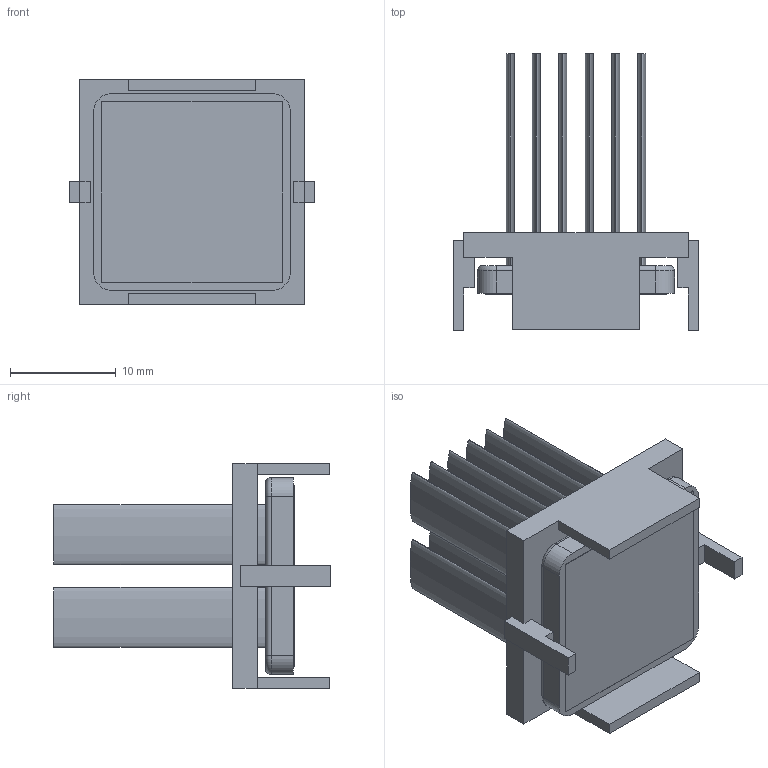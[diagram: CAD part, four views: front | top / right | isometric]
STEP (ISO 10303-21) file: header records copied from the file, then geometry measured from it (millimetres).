
FILE_DESCRIPTION (( 'STEP AP214' ), '1' );
FILE_NAME ('INM19001-23W-2.6Y.STEP', '2023-03-02T18:20:33', ( '' ), ( '' ), 'SwSTEP 2.0', 'SolidWorks 2020', '' );
FILE_SCHEMA (( 'AUTOMOTIVE_DESIGN' ));
Length unit declared in the file: millimetre
Products named in the file (1): INM19001-23W-2.6Y
Bounding box: 23.2 x 26.1 x 21.2 mm (x, y, z)
Volume: 2568.2 mm3; surface area: 5602.2 mm2
Topology: 3 solids, 3 shells, 106 faces, 256 edges, 168 vertices
Faces by surface type: plane 70, bspline 24, cylinder 8, torus 4
Entity records: 4330 total; most frequent: CARTESIAN_POINT 843, ORIENTED_EDGE 512, DIRECTION 394, EDGE_CURVE 256, VECTOR 188, LINE 188, VERTEX_POINT 168, EDGE_LOOP 120
